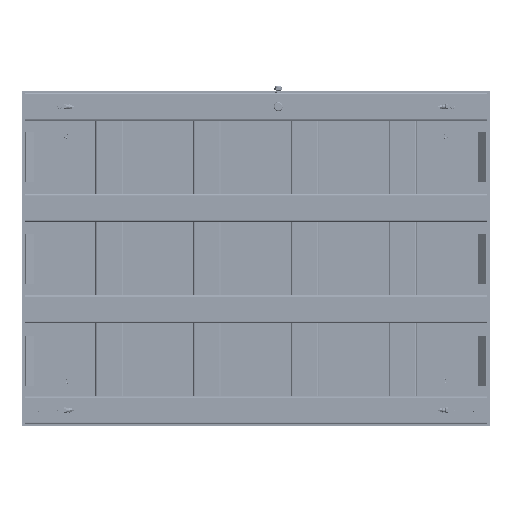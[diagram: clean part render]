
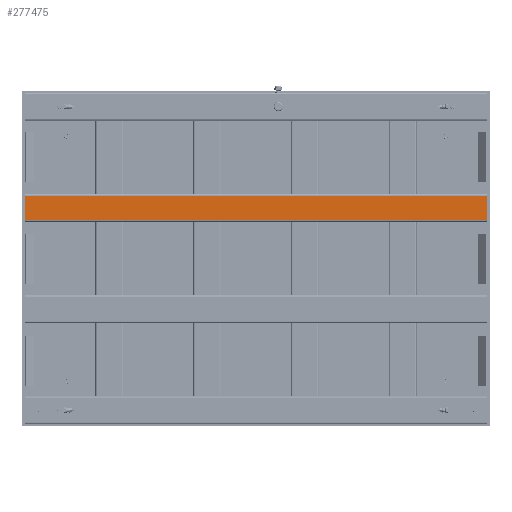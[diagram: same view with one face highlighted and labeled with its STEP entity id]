
A CAD part, front view. The second image highlights one B-rep face of the part: STEP entity #277475.
In plain terms, the highlighted planar face has unit normal (0, -1, 0).
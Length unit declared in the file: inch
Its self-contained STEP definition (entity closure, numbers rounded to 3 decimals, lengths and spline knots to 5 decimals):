
#18922 = DIRECTION ( 'NONE',  ( 0., 0., -1. ) ) ;
#34092 = CARTESIAN_POINT ( 'NONE',  ( 2.1875, 0., 0. ) ) ;
#40807 = VECTOR ( 'NONE', #764842, 39.37008 ) ;
#45319 = DIRECTION ( 'NONE',  ( 1., 0., 0. ) ) ;
#45420 = ORIENTED_EDGE ( 'NONE', *, *, #284492, .F. ) ;
#114292 = CARTESIAN_POINT ( 'NONE',  ( -2.1875, 0., 82.75 ) ) ;
#119413 = AXIS2_PLACEMENT_3D ( 'NONE', #481444, #656498, #301036 ) ;
#132518 = CARTESIAN_POINT ( 'NONE',  ( -2.1875, 0., 82.75 ) ) ;
#136335 = LINE ( 'NONE', #132518, #228699 ) ;
#161063 = ORIENTED_EDGE ( 'NONE', *, *, #653670, .T. ) ;
#174847 = VERTEX_POINT ( 'NONE', #114292 ) ;
#207409 = EDGE_CURVE ( 'NONE', #174847, #511278, #668697, .T. ) ;
#228699 = VECTOR ( 'NONE', #18922, 39.37008 ) ;
#272718 = VECTOR ( 'NONE', #471715, 39.37008 ) ;
#277475 = ADVANCED_FACE ( 'NONE', ( #464539 ), #303583, .F. ) ;
#284492 = EDGE_CURVE ( 'NONE', #334364, #538472, #429615, .T. ) ;
#301036 = DIRECTION ( 'NONE',  ( -1., 0., 0. ) ) ;
#303583 = PLANE ( 'NONE',  #119413 ) ;
#309435 = VECTOR ( 'NONE', #45319, 39.37008 ) ;
#310189 = EDGE_LOOP ( 'NONE', ( #716460, #161063, #45420, #645561 ) ) ;
#334364 = VERTEX_POINT ( 'NONE', #34092 ) ;
#352934 = CARTESIAN_POINT ( 'NONE',  ( 2.1875, 0., 82.75 ) ) ;
#390375 = EDGE_CURVE ( 'NONE', #334364, #511278, #566593, .T. ) ;
#429615 = LINE ( 'NONE', #433217, #272718 ) ;
#433217 = CARTESIAN_POINT ( 'NONE',  ( -2.3125, 0., 0. ) ) ;
#457939 = CARTESIAN_POINT ( 'NONE',  ( -2.1875, 0., 0. ) ) ;
#464539 = FACE_OUTER_BOUND ( 'NONE', #310189, .T. ) ;
#471715 = DIRECTION ( 'NONE',  ( -1., 0., 0. ) ) ;
#481444 = CARTESIAN_POINT ( 'NONE',  ( -2.5, 0., 82.75 ) ) ;
#511278 = VERTEX_POINT ( 'NONE', #721024 ) ;
#538472 = VERTEX_POINT ( 'NONE', #457939 ) ;
#566593 = LINE ( 'NONE', #352934, #40807 ) ;
#614742 = CARTESIAN_POINT ( 'NONE',  ( 2.3125, 0., 82.75 ) ) ;
#645561 = ORIENTED_EDGE ( 'NONE', *, *, #390375, .T. ) ;
#653670 = EDGE_CURVE ( 'NONE', #174847, #538472, #136335, .T. ) ;
#656498 = DIRECTION ( 'NONE',  ( 0., 1., 0. ) ) ;
#668697 = LINE ( 'NONE', #614742, #309435 ) ;
#716460 = ORIENTED_EDGE ( 'NONE', *, *, #207409, .F. ) ;
#721024 = CARTESIAN_POINT ( 'NONE',  ( 2.1875, 0., 82.75 ) ) ;
#764842 = DIRECTION ( 'NONE',  ( 0., 0., 1. ) ) ;
